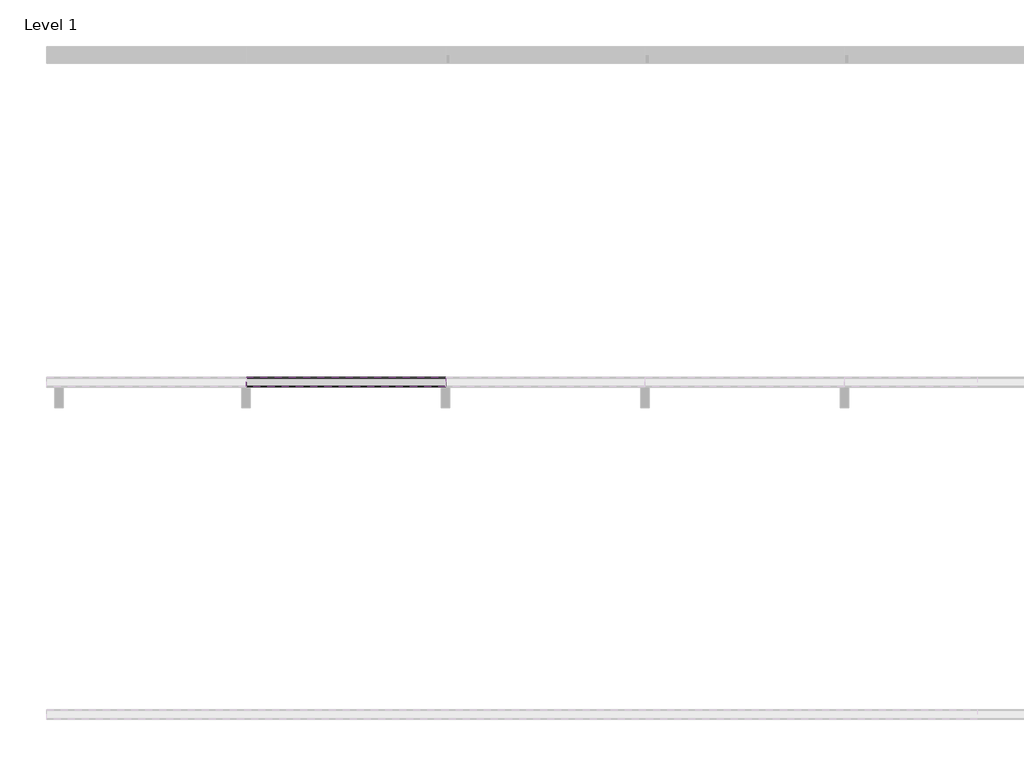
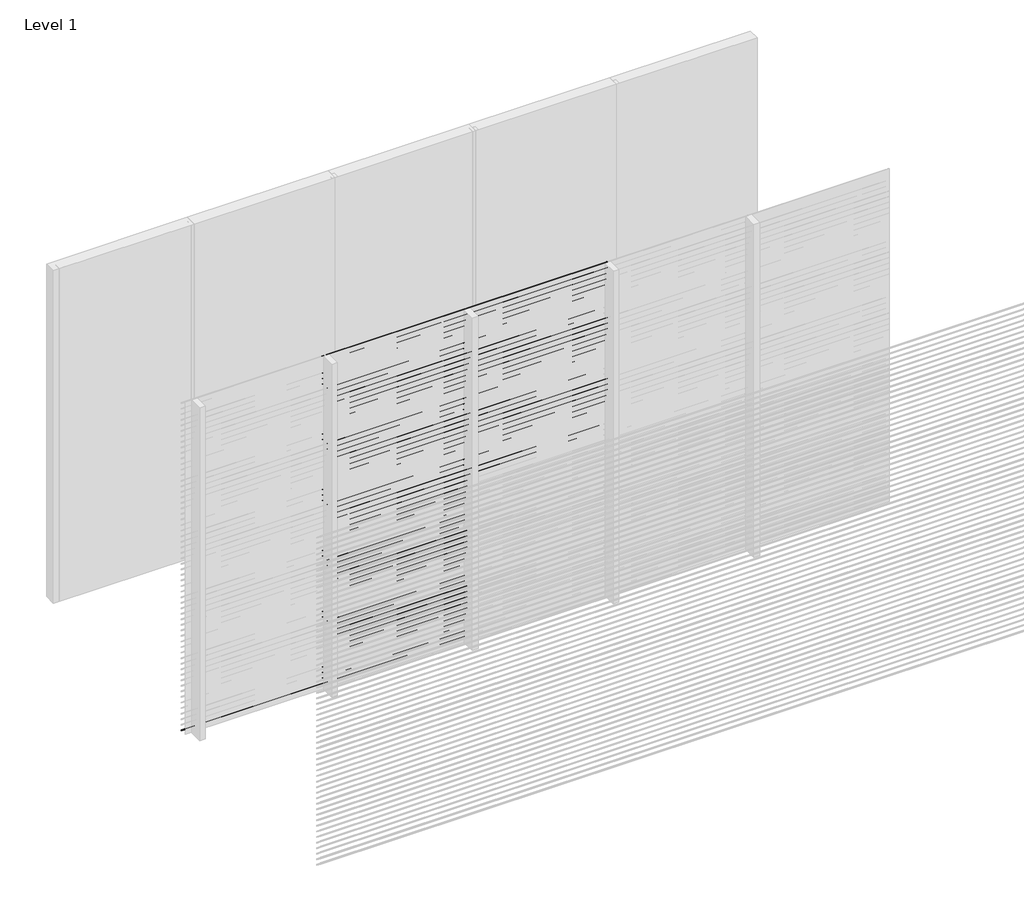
# One storey, part 3 of 16: 92 proxies.
"""IFC4 building model written with IfcOpenShell, lengths in millimetres."""

from ifc_helpers import new_model, si_unit, frame, origin, place, context, project, spatial, polyline, outline, extrude, element, save

model = new_model("IFC4")

# Units and contexts
model_context = context("Model", 3, world=origin())
ifc_project = project(units=[si_unit("LENGTHUNIT", "METRE", prefix="MILLI")], contexts=[model_context])

# Site, building, storey
site = spatial("IfcSite", under=ifc_project)
building = spatial("IfcBuilding", under=site)
storey = spatial("IfcBuildingStorey", under=building, Name="Level 1", Elevation=0.0)

# Proxies
placement = place(None, origin())
element("IfcBuildingElementProxy", 1, Name="Wall Sweeps", at=placement, inside=storey, context=model_context, shape_type="SweptSolid", body=[
    extrude(outline(polyline([(-17995.0, 3000.0), (-17995.0, 2998.0), (-17939.0, 2954.0), (-17939.0, 2946.0), (-17997.0, 2991.5714286), (-17997.0, 3000.0), (-17995.0, 3000.0)])), frame((2400.0000001, 0.0, 0.0), z_axis=(1.0, 0.0, 0.0), x_axis=(0.0, 1.0, 0.0)), (0.0, 0.0, 1.0), 1199.9999999),
])
element("IfcBuildingElementProxy", 2, Name="Wall Sweeps", at=placement, inside=storey, context=model_context, shape_type="SweptSolid", body=[
    extrude(outline(polyline([(-17995.0, 2950.0), (-17995.0, 2948.0), (-17939.0, 2904.0), (-17939.0, 2896.0), (-17997.0, 2941.5714286), (-17997.0, 2950.0), (-17995.0, 2950.0)])), frame((2400.0000001, 0.0, 0.0), z_axis=(1.0, 0.0, 0.0), x_axis=(0.0, 1.0, 0.0)), (0.0, 0.0, 1.0), 1199.9999999),
])
element("IfcBuildingElementProxy", 3, Name="Wall Sweeps", at=placement, inside=storey, context=model_context, shape_type="SweptSolid", body=[
    extrude(outline(polyline([(-17995.0, 2900.0), (-17995.0, 2898.0), (-17939.0, 2854.0), (-17939.0, 2846.0), (-17997.0, 2891.5714286), (-17997.0, 2900.0), (-17995.0, 2900.0)])), frame((2400.0000001, 0.0, 0.0), z_axis=(1.0, 0.0, 0.0), x_axis=(0.0, 1.0, 0.0)), (0.0, 0.0, 1.0), 1199.9999999),
])
element("IfcBuildingElementProxy", 4, Name="Wall Sweeps", at=placement, inside=storey, context=model_context, shape_type="SweptSolid", body=[
    extrude(outline(polyline([(-17995.0, 2850.0), (-17995.0, 2848.0), (-17939.0, 2804.0), (-17939.0, 2796.0), (-17997.0, 2841.5714286), (-17997.0, 2850.0), (-17995.0, 2850.0)])), frame((2400.0000001, 0.0, 0.0), z_axis=(1.0, 0.0, 0.0), x_axis=(0.0, 1.0, 0.0)), (0.0, 0.0, 1.0), 1199.9999999),
])
element("IfcBuildingElementProxy", 5, Name="Wall Sweeps", at=placement, inside=storey, context=model_context, shape_type="SweptSolid", body=[
    extrude(outline(polyline([(-17995.0, 2800.0), (-17995.0, 2798.0), (-17939.0, 2754.0), (-17939.0, 2746.0), (-17997.0, 2791.5714286), (-17997.0, 2800.0), (-17995.0, 2800.0)])), frame((2400.0000001, 0.0, 0.0), z_axis=(1.0, 0.0, 0.0), x_axis=(0.0, 1.0, 0.0)), (0.0, 0.0, 1.0), 1199.9999999),
])
element("IfcBuildingElementProxy", 6, Name="Wall Sweeps", at=placement, inside=storey, context=model_context, shape_type="SweptSolid", body=[
    extrude(outline(polyline([(-17995.0, 2750.0), (-17995.0, 2748.0), (-17939.0, 2704.0), (-17939.0, 2696.0), (-17997.0, 2741.5714286), (-17997.0, 2750.0), (-17995.0, 2750.0)])), frame((2400.0000001, 0.0, 0.0), z_axis=(1.0, 0.0, 0.0), x_axis=(0.0, 1.0, 0.0)), (0.0, 0.0, 1.0), 1199.9999999),
])
element("IfcBuildingElementProxy", 7, Name="Wall Sweeps", at=placement, inside=storey, context=model_context, shape_type="SweptSolid", body=[
    extrude(outline(polyline([(-17995.0, 2700.0), (-17995.0, 2698.0), (-17939.0, 2654.0), (-17939.0, 2646.0), (-17997.0, 2691.5714286), (-17997.0, 2700.0), (-17995.0, 2700.0)])), frame((2400.0000001, 0.0, 0.0), z_axis=(1.0, 0.0, 0.0), x_axis=(0.0, 1.0, 0.0)), (0.0, 0.0, 1.0), 1199.9999999),
])
element("IfcBuildingElementProxy", 8, Name="Wall Sweeps", at=placement, inside=storey, context=model_context, shape_type="SweptSolid", body=[
    extrude(outline(polyline([(-17995.0, 2650.0), (-17995.0, 2648.0), (-17939.0, 2604.0), (-17939.0, 2596.0), (-17997.0, 2641.5714286), (-17997.0, 2650.0), (-17995.0, 2650.0)])), frame((2400.0000001, 0.0, 0.0), z_axis=(1.0, 0.0, 0.0), x_axis=(0.0, 1.0, 0.0)), (0.0, 0.0, 1.0), 1199.9999999),
])
element("IfcBuildingElementProxy", 9, Name="Wall Sweeps", at=placement, inside=storey, context=model_context, shape_type="SweptSolid", body=[
    extrude(outline(polyline([(-17995.0, 2600.0), (-17995.0, 2598.0), (-17939.0, 2554.0), (-17939.0, 2546.0), (-17997.0, 2591.5714286), (-17997.0, 2600.0), (-17995.0, 2600.0)])), frame((2400.0000001, 0.0, 0.0), z_axis=(1.0, 0.0, 0.0), x_axis=(0.0, 1.0, 0.0)), (0.0, 0.0, 1.0), 1199.9999999),
])
element("IfcBuildingElementProxy", 10, Name="Wall Sweeps", at=placement, inside=storey, context=model_context, shape_type="SweptSolid", body=[
    extrude(outline(polyline([(-17995.0, 2550.0), (-17995.0, 2548.0), (-17939.0, 2504.0), (-17939.0, 2496.0), (-17997.0, 2541.5714286), (-17997.0, 2550.0), (-17995.0, 2550.0)])), frame((2400.0000001, 0.0, 0.0), z_axis=(1.0, 0.0, 0.0), x_axis=(0.0, 1.0, 0.0)), (0.0, 0.0, 1.0), 1199.9999999),
])
element("IfcBuildingElementProxy", 11, Name="Wall Sweeps", at=placement, inside=storey, context=model_context, shape_type="SweptSolid", body=[
    extrude(outline(polyline([(-17995.0, 2500.0), (-17995.0, 2498.0), (-17939.0, 2454.0), (-17939.0, 2446.0), (-17997.0, 2491.5714286), (-17997.0, 2500.0), (-17995.0, 2500.0)])), frame((2400.0000001, 0.0, 0.0), z_axis=(1.0, 0.0, 0.0), x_axis=(0.0, 1.0, 0.0)), (0.0, 0.0, 1.0), 1199.9999999),
])
element("IfcBuildingElementProxy", 12, Name="Wall Sweeps", at=placement, inside=storey, context=model_context, shape_type="SweptSolid", body=[
    extrude(outline(polyline([(-17995.0, 2450.0), (-17995.0, 2448.0), (-17939.0, 2404.0), (-17939.0, 2396.0), (-17997.0, 2441.5714286), (-17997.0, 2450.0), (-17995.0, 2450.0)])), frame((2400.0000001, 0.0, 0.0), z_axis=(1.0, 0.0, 0.0), x_axis=(0.0, 1.0, 0.0)), (0.0, 0.0, 1.0), 1199.9999999),
])
element("IfcBuildingElementProxy", 13, Name="Wall Sweeps", at=placement, inside=storey, context=model_context, shape_type="SweptSolid", body=[
    extrude(outline(polyline([(-17995.0, 2400.0), (-17995.0, 2398.0), (-17939.0, 2354.0), (-17939.0, 2346.0), (-17997.0, 2391.5714286), (-17997.0, 2400.0), (-17995.0, 2400.0)])), frame((2400.0000001, 0.0, 0.0), z_axis=(1.0, 0.0, 0.0), x_axis=(0.0, 1.0, 0.0)), (0.0, 0.0, 1.0), 1199.9999999),
])
element("IfcBuildingElementProxy", 14, Name="Wall Sweeps", at=placement, inside=storey, context=model_context, shape_type="SweptSolid", body=[
    extrude(outline(polyline([(-17995.0, 2350.0), (-17995.0, 2348.0), (-17939.0, 2304.0), (-17939.0, 2296.0), (-17997.0, 2341.5714286), (-17997.0, 2350.0), (-17995.0, 2350.0)])), frame((2400.0000001, 0.0, 0.0), z_axis=(1.0, 0.0, 0.0), x_axis=(0.0, 1.0, 0.0)), (0.0, 0.0, 1.0), 1199.9999999),
])
element("IfcBuildingElementProxy", 15, Name="Wall Sweeps", at=placement, inside=storey, context=model_context, shape_type="SweptSolid", body=[
    extrude(outline(polyline([(-17995.0, 2300.0), (-17995.0, 2298.0), (-17939.0, 2254.0), (-17939.0, 2246.0), (-17997.0, 2291.5714286), (-17997.0, 2300.0), (-17995.0, 2300.0)])), frame((2400.0000001, 0.0, 0.0), z_axis=(1.0, 0.0, 0.0), x_axis=(0.0, 1.0, 0.0)), (0.0, 0.0, 1.0), 1199.9999999),
])
element("IfcBuildingElementProxy", 16, Name="Wall Sweeps", at=placement, inside=storey, context=model_context, shape_type="SweptSolid", body=[
    extrude(outline(polyline([(-17995.0, 2250.0), (-17995.0, 2248.0), (-17939.0, 2204.0), (-17939.0, 2196.0), (-17997.0, 2241.5714286), (-17997.0, 2250.0), (-17995.0, 2250.0)])), frame((2400.0000001, 0.0, 0.0), z_axis=(1.0, 0.0, 0.0), x_axis=(0.0, 1.0, 0.0)), (0.0, 0.0, 1.0), 1199.9999999),
])
element("IfcBuildingElementProxy", 17, Name="Wall Sweeps", at=placement, inside=storey, context=model_context, shape_type="SweptSolid", body=[
    extrude(outline(polyline([(-17995.0, 2200.0), (-17995.0, 2198.0), (-17939.0, 2154.0), (-17939.0, 2146.0), (-17997.0, 2191.5714286), (-17997.0, 2200.0), (-17995.0, 2200.0)])), frame((2400.0000001, 0.0, 0.0), z_axis=(1.0, 0.0, 0.0), x_axis=(0.0, 1.0, 0.0)), (0.0, 0.0, 1.0), 1199.9999999),
])
element("IfcBuildingElementProxy", 18, Name="Wall Sweeps", at=placement, inside=storey, context=model_context, shape_type="SweptSolid", body=[
    extrude(outline(polyline([(-17995.0, 2150.0), (-17995.0, 2148.0), (-17939.0, 2104.0), (-17939.0, 2096.0), (-17997.0, 2141.5714286), (-17997.0, 2150.0), (-17995.0, 2150.0)])), frame((2400.0000001, 0.0, 0.0), z_axis=(1.0, 0.0, 0.0), x_axis=(0.0, 1.0, 0.0)), (0.0, 0.0, 1.0), 1199.9999999),
])
element("IfcBuildingElementProxy", 19, Name="Wall Sweeps", at=placement, inside=storey, context=model_context, shape_type="SweptSolid", body=[
    extrude(outline(polyline([(-17995.0, 2100.0), (-17995.0, 2098.0), (-17939.0, 2054.0), (-17939.0, 2046.0), (-17997.0, 2091.5714286), (-17997.0, 2100.0), (-17995.0, 2100.0)])), frame((2400.0000001, 0.0, 0.0), z_axis=(1.0, 0.0, 0.0), x_axis=(0.0, 1.0, 0.0)), (0.0, 0.0, 1.0), 1199.9999999),
])
element("IfcBuildingElementProxy", 20, Name="Wall Sweeps", at=placement, inside=storey, context=model_context, shape_type="SweptSolid", body=[
    extrude(outline(polyline([(-17995.0, 2050.0), (-17995.0, 2048.0), (-17939.0, 2004.0), (-17939.0, 1996.0), (-17997.0, 2041.5714286), (-17997.0, 2050.0), (-17995.0, 2050.0)])), frame((2400.0000001, 0.0, 0.0), z_axis=(1.0, 0.0, 0.0), x_axis=(0.0, 1.0, 0.0)), (0.0, 0.0, 1.0), 1199.9999999),
])
element("IfcBuildingElementProxy", 21, Name="Wall Sweeps", at=placement, inside=storey, context=model_context, shape_type="SweptSolid", body=[
    extrude(outline(polyline([(-17995.0, 2000.0), (-17995.0, 1998.0), (-17939.0, 1954.0), (-17939.0, 1946.0), (-17997.0, 1991.5714286), (-17997.0, 2000.0), (-17995.0, 2000.0)])), frame((2400.0000001, 0.0, 0.0), z_axis=(1.0, 0.0, 0.0), x_axis=(0.0, 1.0, 0.0)), (0.0, 0.0, 1.0), 1199.9999999),
])
element("IfcBuildingElementProxy", 22, Name="Wall Sweeps", at=placement, inside=storey, context=model_context, shape_type="SweptSolid", body=[
    extrude(outline(polyline([(-17995.0, 1950.0), (-17995.0, 1948.0), (-17939.0, 1904.0), (-17939.0, 1896.0), (-17997.0, 1941.5714286), (-17997.0, 1950.0), (-17995.0, 1950.0)])), frame((2400.0000001, 0.0, 0.0), z_axis=(1.0, 0.0, 0.0), x_axis=(0.0, 1.0, 0.0)), (0.0, 0.0, 1.0), 1199.9999999),
])
element("IfcBuildingElementProxy", 23, Name="Wall Sweeps", at=placement, inside=storey, context=model_context, shape_type="SweptSolid", body=[
    extrude(outline(polyline([(-17995.0, 1900.0), (-17995.0, 1898.0), (-17939.0, 1854.0), (-17939.0, 1846.0), (-17997.0, 1891.5714286), (-17997.0, 1900.0), (-17995.0, 1900.0)])), frame((2400.0000001, 0.0, 0.0), z_axis=(1.0, 0.0, 0.0), x_axis=(0.0, 1.0, 0.0)), (0.0, 0.0, 1.0), 1199.9999999),
])
element("IfcBuildingElementProxy", 24, Name="Wall Sweeps", at=placement, inside=storey, context=model_context, shape_type="SweptSolid", body=[
    extrude(outline(polyline([(-17995.0, 1850.0), (-17995.0, 1848.0), (-17939.0, 1804.0), (-17939.0, 1796.0), (-17997.0, 1841.5714286), (-17997.0, 1850.0), (-17995.0, 1850.0)])), frame((2400.0000001, 0.0, 0.0), z_axis=(1.0, 0.0, 0.0), x_axis=(0.0, 1.0, 0.0)), (0.0, 0.0, 1.0), 1199.9999999),
])
element("IfcBuildingElementProxy", 25, Name="Wall Sweeps", at=placement, inside=storey, context=model_context, shape_type="SweptSolid", body=[
    extrude(outline(polyline([(-17995.0, 1800.0), (-17995.0, 1798.0), (-17939.0, 1754.0), (-17939.0, 1746.0), (-17997.0, 1791.5714286), (-17997.0, 1800.0), (-17995.0, 1800.0)])), frame((2400.0000001, 0.0, 0.0), z_axis=(1.0, 0.0, 0.0), x_axis=(0.0, 1.0, 0.0)), (0.0, 0.0, 1.0), 1199.9999999),
])
element("IfcBuildingElementProxy", 26, Name="Wall Sweeps", at=placement, inside=storey, context=model_context, shape_type="SweptSolid", body=[
    extrude(outline(polyline([(-17995.0, 1750.0), (-17995.0, 1748.0), (-17939.0, 1704.0), (-17939.0, 1696.0), (-17997.0, 1741.5714286), (-17997.0, 1750.0), (-17995.0, 1750.0)])), frame((2400.0000001, 0.0, 0.0), z_axis=(1.0, 0.0, 0.0), x_axis=(0.0, 1.0, 0.0)), (0.0, 0.0, 1.0), 1199.9999999),
])
element("IfcBuildingElementProxy", 27, Name="Wall Sweeps", at=placement, inside=storey, context=model_context, shape_type="SweptSolid", body=[
    extrude(outline(polyline([(-17995.0, 1700.0), (-17995.0, 1698.0), (-17939.0, 1654.0), (-17939.0, 1646.0), (-17997.0, 1691.5714286), (-17997.0, 1700.0), (-17995.0, 1700.0)])), frame((2400.0000001, 0.0, 0.0), z_axis=(1.0, 0.0, 0.0), x_axis=(0.0, 1.0, 0.0)), (0.0, 0.0, 1.0), 1199.9999999),
])
element("IfcBuildingElementProxy", 28, Name="Wall Sweeps", at=placement, inside=storey, context=model_context, shape_type="SweptSolid", body=[
    extrude(outline(polyline([(-17995.0, 1650.0), (-17995.0, 1648.0), (-17939.0, 1604.0), (-17939.0, 1596.0), (-17997.0, 1641.5714286), (-17997.0, 1650.0), (-17995.0, 1650.0)])), frame((2400.0000001, 0.0, 0.0), z_axis=(1.0, 0.0, 0.0), x_axis=(0.0, 1.0, 0.0)), (0.0, 0.0, 1.0), 1199.9999999),
])
element("IfcBuildingElementProxy", 29, Name="Wall Sweeps", at=placement, inside=storey, context=model_context, shape_type="SweptSolid", body=[
    extrude(outline(polyline([(-17995.0, 1600.0), (-17995.0, 1598.0), (-17939.0, 1554.0), (-17939.0, 1546.0), (-17997.0, 1591.5714286), (-17997.0, 1600.0), (-17995.0, 1600.0)])), frame((2400.0000001, 0.0, 0.0), z_axis=(1.0, 0.0, 0.0), x_axis=(0.0, 1.0, 0.0)), (0.0, 0.0, 1.0), 1199.9999999),
])
element("IfcBuildingElementProxy", 30, Name="Wall Sweeps", at=placement, inside=storey, context=model_context, shape_type="SweptSolid", body=[
    extrude(outline(polyline([(-17995.0, 1550.0), (-17995.0, 1548.0), (-17939.0, 1504.0), (-17939.0, 1496.0), (-17997.0, 1541.5714286), (-17997.0, 1550.0), (-17995.0, 1550.0)])), frame((2400.0000001, 0.0, 0.0), z_axis=(1.0, 0.0, 0.0), x_axis=(0.0, 1.0, 0.0)), (0.0, 0.0, 1.0), 1199.9999999),
])
element("IfcBuildingElementProxy", 31, Name="Wall Sweeps", at=placement, inside=storey, context=model_context, shape_type="SweptSolid", body=[
    extrude(outline(polyline([(-17995.0, 1500.0), (-17995.0, 1498.0), (-17939.0, 1454.0), (-17939.0, 1446.0), (-17997.0, 1491.5714286), (-17997.0, 1500.0), (-17995.0, 1500.0)])), frame((2400.0000001, 0.0, 0.0), z_axis=(1.0, 0.0, 0.0), x_axis=(0.0, 1.0, 0.0)), (0.0, 0.0, 1.0), 1199.9999999),
])
element("IfcBuildingElementProxy", 32, Name="Wall Sweeps", at=placement, inside=storey, context=model_context, shape_type="SweptSolid", body=[
    extrude(outline(polyline([(-17995.0, 3000.0), (-17995.0, 2998.0), (-17939.0, 2954.0), (-17939.0, 2946.0), (-17997.0, 2991.5714286), (-17997.0, 3000.0), (-17995.0, 3000.0)])), frame((1200.0000002, 0.0, 0.0), z_axis=(1.0, 0.0, 0.0), x_axis=(0.0, 1.0, 0.0)), (0.0, 0.0, 1.0), 1199.9999999),
])
element("IfcBuildingElementProxy", 33, Name="Wall Sweeps", at=placement, inside=storey, context=model_context, shape_type="SweptSolid", body=[
    extrude(outline(polyline([(-17995.0, 2950.0), (-17995.0, 2948.0), (-17939.0, 2904.0), (-17939.0, 2896.0), (-17997.0, 2941.5714286), (-17997.0, 2950.0), (-17995.0, 2950.0)])), frame((1200.0000002, 0.0, 0.0), z_axis=(1.0, 0.0, 0.0), x_axis=(0.0, 1.0, 0.0)), (0.0, 0.0, 1.0), 1199.9999999),
])
element("IfcBuildingElementProxy", 34, Name="Wall Sweeps", at=placement, inside=storey, context=model_context, shape_type="SweptSolid", body=[
    extrude(outline(polyline([(-17995.0, 2900.0), (-17995.0, 2898.0), (-17939.0, 2854.0), (-17939.0, 2846.0), (-17997.0, 2891.5714286), (-17997.0, 2900.0), (-17995.0, 2900.0)])), frame((1200.0000002, 0.0, 0.0), z_axis=(1.0, 0.0, 0.0), x_axis=(0.0, 1.0, 0.0)), (0.0, 0.0, 1.0), 1199.9999999),
])
element("IfcBuildingElementProxy", 35, Name="Wall Sweeps", at=placement, inside=storey, context=model_context, shape_type="SweptSolid", body=[
    extrude(outline(polyline([(-17995.0, 2850.0), (-17995.0, 2848.0), (-17939.0, 2804.0), (-17939.0, 2796.0), (-17997.0, 2841.5714286), (-17997.0, 2850.0), (-17995.0, 2850.0)])), frame((1200.0000002, 0.0, 0.0), z_axis=(1.0, 0.0, 0.0), x_axis=(0.0, 1.0, 0.0)), (0.0, 0.0, 1.0), 1199.9999999),
])
element("IfcBuildingElementProxy", 36, Name="Wall Sweeps", at=placement, inside=storey, context=model_context, shape_type="SweptSolid", body=[
    extrude(outline(polyline([(-17995.0, 2800.0), (-17995.0, 2798.0), (-17939.0, 2754.0), (-17939.0, 2746.0), (-17997.0, 2791.5714286), (-17997.0, 2800.0), (-17995.0, 2800.0)])), frame((1200.0000002, 0.0, 0.0), z_axis=(1.0, 0.0, 0.0), x_axis=(0.0, 1.0, 0.0)), (0.0, 0.0, 1.0), 1199.9999999),
])
element("IfcBuildingElementProxy", 37, Name="Wall Sweeps", at=placement, inside=storey, context=model_context, shape_type="SweptSolid", body=[
    extrude(outline(polyline([(-17995.0, 2750.0), (-17995.0, 2748.0), (-17939.0, 2704.0), (-17939.0, 2696.0), (-17997.0, 2741.5714286), (-17997.0, 2750.0), (-17995.0, 2750.0)])), frame((1200.0000002, 0.0, 0.0), z_axis=(1.0, 0.0, 0.0), x_axis=(0.0, 1.0, 0.0)), (0.0, 0.0, 1.0), 1199.9999999),
])
element("IfcBuildingElementProxy", 38, Name="Wall Sweeps", at=placement, inside=storey, context=model_context, shape_type="SweptSolid", body=[
    extrude(outline(polyline([(-17995.0, 2700.0), (-17995.0, 2698.0), (-17939.0, 2654.0), (-17939.0, 2646.0), (-17997.0, 2691.5714286), (-17997.0, 2700.0), (-17995.0, 2700.0)])), frame((1200.0000002, 0.0, 0.0), z_axis=(1.0, 0.0, 0.0), x_axis=(0.0, 1.0, 0.0)), (0.0, 0.0, 1.0), 1199.9999999),
])
element("IfcBuildingElementProxy", 39, Name="Wall Sweeps", at=placement, inside=storey, context=model_context, shape_type="SweptSolid", body=[
    extrude(outline(polyline([(-17995.0, 2650.0), (-17995.0, 2648.0), (-17939.0, 2604.0), (-17939.0, 2596.0), (-17997.0, 2641.5714286), (-17997.0, 2650.0), (-17995.0, 2650.0)])), frame((1200.0000002, 0.0, 0.0), z_axis=(1.0, 0.0, 0.0), x_axis=(0.0, 1.0, 0.0)), (0.0, 0.0, 1.0), 1199.9999999),
])
element("IfcBuildingElementProxy", 40, Name="Wall Sweeps", at=placement, inside=storey, context=model_context, shape_type="SweptSolid", body=[
    extrude(outline(polyline([(-17995.0, 2600.0), (-17995.0, 2598.0), (-17939.0, 2554.0), (-17939.0, 2546.0), (-17997.0, 2591.5714286), (-17997.0, 2600.0), (-17995.0, 2600.0)])), frame((1200.0000002, 0.0, 0.0), z_axis=(1.0, 0.0, 0.0), x_axis=(0.0, 1.0, 0.0)), (0.0, 0.0, 1.0), 1199.9999999),
])
element("IfcBuildingElementProxy", 41, Name="Wall Sweeps", at=placement, inside=storey, context=model_context, shape_type="SweptSolid", body=[
    extrude(outline(polyline([(-17995.0, 2550.0), (-17995.0, 2548.0), (-17939.0, 2504.0), (-17939.0, 2496.0), (-17997.0, 2541.5714286), (-17997.0, 2550.0), (-17995.0, 2550.0)])), frame((1200.0000002, 0.0, 0.0), z_axis=(1.0, 0.0, 0.0), x_axis=(0.0, 1.0, 0.0)), (0.0, 0.0, 1.0), 1199.9999999),
])
element("IfcBuildingElementProxy", 42, Name="Wall Sweeps", at=placement, inside=storey, context=model_context, shape_type="SweptSolid", body=[
    extrude(outline(polyline([(-17995.0, 2500.0), (-17995.0, 2498.0), (-17939.0, 2454.0), (-17939.0, 2446.0), (-17997.0, 2491.5714286), (-17997.0, 2500.0), (-17995.0, 2500.0)])), frame((1200.0000002, 0.0, 0.0), z_axis=(1.0, 0.0, 0.0), x_axis=(0.0, 1.0, 0.0)), (0.0, 0.0, 1.0), 1199.9999999),
])
element("IfcBuildingElementProxy", 43, Name="Wall Sweeps", at=placement, inside=storey, context=model_context, shape_type="SweptSolid", body=[
    extrude(outline(polyline([(-17995.0, 2450.0), (-17995.0, 2448.0), (-17939.0, 2404.0), (-17939.0, 2396.0), (-17997.0, 2441.5714286), (-17997.0, 2450.0), (-17995.0, 2450.0)])), frame((1200.0000002, 0.0, 0.0), z_axis=(1.0, 0.0, 0.0), x_axis=(0.0, 1.0, 0.0)), (0.0, 0.0, 1.0), 1199.9999999),
])
element("IfcBuildingElementProxy", 44, Name="Wall Sweeps", at=placement, inside=storey, context=model_context, shape_type="SweptSolid", body=[
    extrude(outline(polyline([(-17995.0, 2400.0), (-17995.0, 2398.0), (-17939.0, 2354.0), (-17939.0, 2346.0), (-17997.0, 2391.5714286), (-17997.0, 2400.0), (-17995.0, 2400.0)])), frame((1200.0000002, 0.0, 0.0), z_axis=(1.0, 0.0, 0.0), x_axis=(0.0, 1.0, 0.0)), (0.0, 0.0, 1.0), 1199.9999999),
])
element("IfcBuildingElementProxy", 45, Name="Wall Sweeps", at=placement, inside=storey, context=model_context, shape_type="SweptSolid", body=[
    extrude(outline(polyline([(-17995.0, 2350.0), (-17995.0, 2348.0), (-17939.0, 2304.0), (-17939.0, 2296.0), (-17997.0, 2341.5714286), (-17997.0, 2350.0), (-17995.0, 2350.0)])), frame((1200.0000002, 0.0, 0.0), z_axis=(1.0, 0.0, 0.0), x_axis=(0.0, 1.0, 0.0)), (0.0, 0.0, 1.0), 1199.9999999),
])
element("IfcBuildingElementProxy", 46, Name="Wall Sweeps", at=placement, inside=storey, context=model_context, shape_type="SweptSolid", body=[
    extrude(outline(polyline([(-17995.0, 2300.0), (-17995.0, 2298.0), (-17939.0, 2254.0), (-17939.0, 2246.0), (-17997.0, 2291.5714286), (-17997.0, 2300.0), (-17995.0, 2300.0)])), frame((1200.0000002, 0.0, 0.0), z_axis=(1.0, 0.0, 0.0), x_axis=(0.0, 1.0, 0.0)), (0.0, 0.0, 1.0), 1199.9999999),
])
element("IfcBuildingElementProxy", 47, Name="Wall Sweeps", at=placement, inside=storey, context=model_context, shape_type="SweptSolid", body=[
    extrude(outline(polyline([(-17995.0, 2250.0), (-17995.0, 2248.0), (-17939.0, 2204.0), (-17939.0, 2196.0), (-17997.0, 2241.5714286), (-17997.0, 2250.0), (-17995.0, 2250.0)])), frame((1200.0000002, 0.0, 0.0), z_axis=(1.0, 0.0, 0.0), x_axis=(0.0, 1.0, 0.0)), (0.0, 0.0, 1.0), 1199.9999999),
])
element("IfcBuildingElementProxy", 48, Name="Wall Sweeps", at=placement, inside=storey, context=model_context, shape_type="SweptSolid", body=[
    extrude(outline(polyline([(-17995.0, 2200.0), (-17995.0, 2198.0), (-17939.0, 2154.0), (-17939.0, 2146.0), (-17997.0, 2191.5714286), (-17997.0, 2200.0), (-17995.0, 2200.0)])), frame((1200.0000002, 0.0, 0.0), z_axis=(1.0, 0.0, 0.0), x_axis=(0.0, 1.0, 0.0)), (0.0, 0.0, 1.0), 1199.9999999),
])
element("IfcBuildingElementProxy", 49, Name="Wall Sweeps", at=placement, inside=storey, context=model_context, shape_type="SweptSolid", body=[
    extrude(outline(polyline([(-17995.0, 2150.0), (-17995.0, 2148.0), (-17939.0, 2104.0), (-17939.0, 2096.0), (-17997.0, 2141.5714286), (-17997.0, 2150.0), (-17995.0, 2150.0)])), frame((1200.0000002, 0.0, 0.0), z_axis=(1.0, 0.0, 0.0), x_axis=(0.0, 1.0, 0.0)), (0.0, 0.0, 1.0), 1199.9999999),
])
element("IfcBuildingElementProxy", 50, Name="Wall Sweeps", at=placement, inside=storey, context=model_context, shape_type="SweptSolid", body=[
    extrude(outline(polyline([(-17995.0, 2100.0), (-17995.0, 2098.0), (-17939.0, 2054.0), (-17939.0, 2046.0), (-17997.0, 2091.5714286), (-17997.0, 2100.0), (-17995.0, 2100.0)])), frame((1200.0000002, 0.0, 0.0), z_axis=(1.0, 0.0, 0.0), x_axis=(0.0, 1.0, 0.0)), (0.0, 0.0, 1.0), 1199.9999999),
])
element("IfcBuildingElementProxy", 51, Name="Wall Sweeps", at=placement, inside=storey, context=model_context, shape_type="SweptSolid", body=[
    extrude(outline(polyline([(-17995.0, 2050.0), (-17995.0, 2048.0), (-17939.0, 2004.0), (-17939.0, 1996.0), (-17997.0, 2041.5714286), (-17997.0, 2050.0), (-17995.0, 2050.0)])), frame((1200.0000002, 0.0, 0.0), z_axis=(1.0, 0.0, 0.0), x_axis=(0.0, 1.0, 0.0)), (0.0, 0.0, 1.0), 1199.9999999),
])
element("IfcBuildingElementProxy", 52, Name="Wall Sweeps", at=placement, inside=storey, context=model_context, shape_type="SweptSolid", body=[
    extrude(outline(polyline([(-17995.0, 2000.0), (-17995.0, 1998.0), (-17939.0, 1954.0), (-17939.0, 1946.0), (-17997.0, 1991.5714286), (-17997.0, 2000.0), (-17995.0, 2000.0)])), frame((1200.0000002, 0.0, 0.0), z_axis=(1.0, 0.0, 0.0), x_axis=(0.0, 1.0, 0.0)), (0.0, 0.0, 1.0), 1199.9999999),
])
element("IfcBuildingElementProxy", 53, Name="Wall Sweeps", at=placement, inside=storey, context=model_context, shape_type="SweptSolid", body=[
    extrude(outline(polyline([(-17995.0, 1950.0), (-17995.0, 1948.0), (-17939.0, 1904.0), (-17939.0, 1896.0), (-17997.0, 1941.5714286), (-17997.0, 1950.0), (-17995.0, 1950.0)])), frame((1200.0000002, 0.0, 0.0), z_axis=(1.0, 0.0, 0.0), x_axis=(0.0, 1.0, 0.0)), (0.0, 0.0, 1.0), 1199.9999999),
])
element("IfcBuildingElementProxy", 54, Name="Wall Sweeps", at=placement, inside=storey, context=model_context, shape_type="SweptSolid", body=[
    extrude(outline(polyline([(-17995.0, 1900.0), (-17995.0, 1898.0), (-17939.0, 1854.0), (-17939.0, 1846.0), (-17997.0, 1891.5714286), (-17997.0, 1900.0), (-17995.0, 1900.0)])), frame((1200.0000002, 0.0, 0.0), z_axis=(1.0, 0.0, 0.0), x_axis=(0.0, 1.0, 0.0)), (0.0, 0.0, 1.0), 1199.9999999),
])
element("IfcBuildingElementProxy", 55, Name="Wall Sweeps", at=placement, inside=storey, context=model_context, shape_type="SweptSolid", body=[
    extrude(outline(polyline([(-17995.0, 1850.0), (-17995.0, 1848.0), (-17939.0, 1804.0), (-17939.0, 1796.0), (-17997.0, 1841.5714286), (-17997.0, 1850.0), (-17995.0, 1850.0)])), frame((1200.0000002, 0.0, 0.0), z_axis=(1.0, 0.0, 0.0), x_axis=(0.0, 1.0, 0.0)), (0.0, 0.0, 1.0), 1199.9999999),
])
element("IfcBuildingElementProxy", 56, Name="Wall Sweeps", at=placement, inside=storey, context=model_context, shape_type="SweptSolid", body=[
    extrude(outline(polyline([(-17995.0, 1800.0), (-17995.0, 1798.0), (-17939.0, 1754.0), (-17939.0, 1746.0), (-17997.0, 1791.5714286), (-17997.0, 1800.0), (-17995.0, 1800.0)])), frame((1200.0000002, 0.0, 0.0), z_axis=(1.0, 0.0, 0.0), x_axis=(0.0, 1.0, 0.0)), (0.0, 0.0, 1.0), 1199.9999999),
])
element("IfcBuildingElementProxy", 57, Name="Wall Sweeps", at=placement, inside=storey, context=model_context, shape_type="SweptSolid", body=[
    extrude(outline(polyline([(-17995.0, 1750.0), (-17995.0, 1748.0), (-17939.0, 1704.0), (-17939.0, 1696.0), (-17997.0, 1741.5714286), (-17997.0, 1750.0), (-17995.0, 1750.0)])), frame((1200.0000002, 0.0, 0.0), z_axis=(1.0, 0.0, 0.0), x_axis=(0.0, 1.0, 0.0)), (0.0, 0.0, 1.0), 1199.9999999),
])
element("IfcBuildingElementProxy", 58, Name="Wall Sweeps", at=placement, inside=storey, context=model_context, shape_type="SweptSolid", body=[
    extrude(outline(polyline([(-17995.0, 1700.0), (-17995.0, 1698.0), (-17939.0, 1654.0), (-17939.0, 1646.0), (-17997.0, 1691.5714286), (-17997.0, 1700.0), (-17995.0, 1700.0)])), frame((1200.0000002, 0.0, 0.0), z_axis=(1.0, 0.0, 0.0), x_axis=(0.0, 1.0, 0.0)), (0.0, 0.0, 1.0), 1199.9999999),
])
element("IfcBuildingElementProxy", 59, Name="Wall Sweeps", at=placement, inside=storey, context=model_context, shape_type="SweptSolid", body=[
    extrude(outline(polyline([(-17995.0, 1650.0), (-17995.0, 1648.0), (-17939.0, 1604.0), (-17939.0, 1596.0), (-17997.0, 1641.5714286), (-17997.0, 1650.0), (-17995.0, 1650.0)])), frame((1200.0000002, 0.0, 0.0), z_axis=(1.0, 0.0, 0.0), x_axis=(0.0, 1.0, 0.0)), (0.0, 0.0, 1.0), 1199.9999999),
])
element("IfcBuildingElementProxy", 60, Name="Wall Sweeps", at=placement, inside=storey, context=model_context, shape_type="SweptSolid", body=[
    extrude(outline(polyline([(-17995.0, 1600.0), (-17995.0, 1598.0), (-17939.0, 1554.0), (-17939.0, 1546.0), (-17997.0, 1591.5714286), (-17997.0, 1600.0), (-17995.0, 1600.0)])), frame((1200.0000002, 0.0, 0.0), z_axis=(1.0, 0.0, 0.0), x_axis=(0.0, 1.0, 0.0)), (0.0, 0.0, 1.0), 1199.9999999),
])
element("IfcBuildingElementProxy", 61, Name="Wall Sweeps", at=placement, inside=storey, context=model_context, shape_type="SweptSolid", body=[
    extrude(outline(polyline([(-17995.0, 1550.0), (-17995.0, 1548.0), (-17939.0, 1504.0), (-17939.0, 1496.0), (-17997.0, 1541.5714286), (-17997.0, 1550.0), (-17995.0, 1550.0)])), frame((1200.0000002, 0.0, 0.0), z_axis=(1.0, 0.0, 0.0), x_axis=(0.0, 1.0, 0.0)), (0.0, 0.0, 1.0), 1199.9999999),
])
element("IfcBuildingElementProxy", 62, Name="Wall Sweeps", at=placement, inside=storey, context=model_context, shape_type="SweptSolid", body=[
    extrude(outline(polyline([(-17995.0, 1500.0), (-17995.0, 1498.0), (-17939.0, 1454.0), (-17939.0, 1446.0), (-17997.0, 1491.5714286), (-17997.0, 1500.0), (-17995.0, 1500.0)])), frame((1200.0000002, 0.0, 0.0), z_axis=(1.0, 0.0, 0.0), x_axis=(0.0, 1.0, 0.0)), (0.0, 0.0, 1.0), 1199.9999999),
])
element("IfcBuildingElementProxy", 63, Name="Wall Sweeps", at=placement, inside=storey, context=model_context, shape_type="SweptSolid", body=[
    extrude(outline(polyline([(-17995.0, 1450.0), (-17995.0, 1448.0), (-17939.0, 1404.0), (-17939.0, 1396.0), (-17997.0, 1441.5714286), (-17997.0, 1450.0), (-17995.0, 1450.0)])), frame((1200.0000002, 0.0, 0.0), z_axis=(1.0, 0.0, 0.0), x_axis=(0.0, 1.0, 0.0)), (0.0, 0.0, 1.0), 1199.9999999),
])
element("IfcBuildingElementProxy", 64, Name="Wall Sweeps", at=placement, inside=storey, context=model_context, shape_type="SweptSolid", body=[
    extrude(outline(polyline([(-17995.0, 1400.0), (-17995.0, 1398.0), (-17939.0, 1354.0), (-17939.0, 1346.0), (-17997.0, 1391.5714286), (-17997.0, 1400.0), (-17995.0, 1400.0)])), frame((1200.0000002, 0.0, 0.0), z_axis=(1.0, 0.0, 0.0), x_axis=(0.0, 1.0, 0.0)), (0.0, 0.0, 1.0), 1199.9999999),
])
element("IfcBuildingElementProxy", 65, Name="Wall Sweeps", at=placement, inside=storey, context=model_context, shape_type="SweptSolid", body=[
    extrude(outline(polyline([(-17995.0, 1350.0), (-17995.0, 1348.0), (-17939.0, 1304.0), (-17939.0, 1296.0), (-17997.0, 1341.5714286), (-17997.0, 1350.0), (-17995.0, 1350.0)])), frame((1200.0000002, 0.0, 0.0), z_axis=(1.0, 0.0, 0.0), x_axis=(0.0, 1.0, 0.0)), (0.0, 0.0, 1.0), 1199.9999999),
])
element("IfcBuildingElementProxy", 66, Name="Wall Sweeps", at=placement, inside=storey, context=model_context, shape_type="SweptSolid", body=[
    extrude(outline(polyline([(-17995.0, 1300.0), (-17995.0, 1298.0), (-17939.0, 1254.0), (-17939.0, 1246.0), (-17997.0, 1291.5714286), (-17997.0, 1300.0), (-17995.0, 1300.0)])), frame((1200.0000002, 0.0, 0.0), z_axis=(1.0, 0.0, 0.0), x_axis=(0.0, 1.0, 0.0)), (0.0, 0.0, 1.0), 1199.9999999),
])
element("IfcBuildingElementProxy", 67, Name="Wall Sweeps", at=placement, inside=storey, context=model_context, shape_type="SweptSolid", body=[
    extrude(outline(polyline([(-17995.0, 1250.0), (-17995.0, 1248.0), (-17939.0, 1204.0), (-17939.0, 1196.0), (-17997.0, 1241.5714286), (-17997.0, 1250.0), (-17995.0, 1250.0)])), frame((1200.0000002, 0.0, 0.0), z_axis=(1.0, 0.0, 0.0), x_axis=(0.0, 1.0, 0.0)), (0.0, 0.0, 1.0), 1199.9999999),
])
element("IfcBuildingElementProxy", 68, Name="Wall Sweeps", at=placement, inside=storey, context=model_context, shape_type="SweptSolid", body=[
    extrude(outline(polyline([(-17995.0, 1200.0), (-17995.0, 1198.0), (-17939.0, 1154.0), (-17939.0, 1146.0), (-17997.0, 1191.5714286), (-17997.0, 1200.0), (-17995.0, 1200.0)])), frame((1200.0000002, 0.0, 0.0), z_axis=(1.0, 0.0, 0.0), x_axis=(0.0, 1.0, 0.0)), (0.0, 0.0, 1.0), 1199.9999999),
])
element("IfcBuildingElementProxy", 69, Name="Wall Sweeps", at=placement, inside=storey, context=model_context, shape_type="SweptSolid", body=[
    extrude(outline(polyline([(-17995.0, 1150.0), (-17995.0, 1148.0), (-17939.0, 1104.0), (-17939.0, 1096.0), (-17997.0, 1141.5714286), (-17997.0, 1150.0), (-17995.0, 1150.0)])), frame((1200.0000002, 0.0, 0.0), z_axis=(1.0, 0.0, 0.0), x_axis=(0.0, 1.0, 0.0)), (0.0, 0.0, 1.0), 1199.9999999),
])
element("IfcBuildingElementProxy", 70, Name="Wall Sweeps", at=placement, inside=storey, context=model_context, shape_type="SweptSolid", body=[
    extrude(outline(polyline([(-17995.0, 1100.0), (-17995.0, 1098.0), (-17939.0, 1054.0), (-17939.0, 1046.0), (-17997.0, 1091.5714286), (-17997.0, 1100.0), (-17995.0, 1100.0)])), frame((1200.0000002, 0.0, 0.0), z_axis=(1.0, 0.0, 0.0), x_axis=(0.0, 1.0, 0.0)), (0.0, 0.0, 1.0), 1199.9999999),
])
element("IfcBuildingElementProxy", 71, Name="Wall Sweeps", at=placement, inside=storey, context=model_context, shape_type="SweptSolid", body=[
    extrude(outline(polyline([(-17995.0, 1050.0), (-17995.0, 1048.0), (-17939.0, 1004.0), (-17939.0, 996.0), (-17997.0, 1041.5714286), (-17997.0, 1050.0), (-17995.0, 1050.0)])), frame((1200.0000002, 0.0, 0.0), z_axis=(1.0, 0.0, 0.0), x_axis=(0.0, 1.0, 0.0)), (0.0, 0.0, 1.0), 1199.9999999),
])
element("IfcBuildingElementProxy", 72, Name="Wall Sweeps", at=placement, inside=storey, context=model_context, shape_type="SweptSolid", body=[
    extrude(outline(polyline([(-17995.0, 1000.0), (-17995.0, 998.0), (-17939.0, 954.0), (-17939.0, 946.0), (-17997.0, 991.5714286), (-17997.0, 1000.0), (-17995.0, 1000.0)])), frame((1200.0000002, 0.0, 0.0), z_axis=(1.0, 0.0, 0.0), x_axis=(0.0, 1.0, 0.0)), (0.0, 0.0, 1.0), 1199.9999999),
])
element("IfcBuildingElementProxy", 73, Name="Wall Sweeps", at=placement, inside=storey, context=model_context, shape_type="SweptSolid", body=[
    extrude(outline(polyline([(-17995.0, 950.0), (-17995.0, 948.0), (-17939.0, 904.0), (-17939.0, 896.0), (-17997.0, 941.5714286), (-17997.0, 950.0), (-17995.0, 950.0)])), frame((1200.0000002, 0.0, 0.0), z_axis=(1.0, 0.0, 0.0), x_axis=(0.0, 1.0, 0.0)), (0.0, 0.0, 1.0), 1199.9999999),
])
element("IfcBuildingElementProxy", 74, Name="Wall Sweeps", at=placement, inside=storey, context=model_context, shape_type="SweptSolid", body=[
    extrude(outline(polyline([(-17995.0, 900.0), (-17995.0, 898.0), (-17939.0, 854.0), (-17939.0, 846.0), (-17997.0, 891.5714286), (-17997.0, 900.0), (-17995.0, 900.0)])), frame((1200.0000002, 0.0, 0.0), z_axis=(1.0, 0.0, 0.0), x_axis=(0.0, 1.0, 0.0)), (0.0, 0.0, 1.0), 1199.9999999),
])
element("IfcBuildingElementProxy", 75, Name="Wall Sweeps", at=placement, inside=storey, context=model_context, shape_type="SweptSolid", body=[
    extrude(outline(polyline([(-17995.0, 850.0), (-17995.0, 848.0), (-17939.0, 804.0), (-17939.0, 796.0), (-17997.0, 841.5714286), (-17997.0, 850.0), (-17995.0, 850.0)])), frame((1200.0000002, 0.0, 0.0), z_axis=(1.0, 0.0, 0.0), x_axis=(0.0, 1.0, 0.0)), (0.0, 0.0, 1.0), 1199.9999999),
])
element("IfcBuildingElementProxy", 76, Name="Wall Sweeps", at=placement, inside=storey, context=model_context, shape_type="SweptSolid", body=[
    extrude(outline(polyline([(-17995.0, 800.0), (-17995.0, 798.0), (-17939.0, 754.0), (-17939.0, 746.0), (-17997.0, 791.5714286), (-17997.0, 800.0), (-17995.0, 800.0)])), frame((1200.0000002, 0.0, 0.0), z_axis=(1.0, 0.0, 0.0), x_axis=(0.0, 1.0, 0.0)), (0.0, 0.0, 1.0), 1199.9999999),
])
element("IfcBuildingElementProxy", 77, Name="Wall Sweeps", at=placement, inside=storey, context=model_context, shape_type="SweptSolid", body=[
    extrude(outline(polyline([(-17995.0, 750.0), (-17995.0, 748.0), (-17939.0, 704.0), (-17939.0, 696.0), (-17997.0, 741.5714286), (-17997.0, 750.0), (-17995.0, 750.0)])), frame((1200.0000002, 0.0, 0.0), z_axis=(1.0, 0.0, 0.0), x_axis=(0.0, 1.0, 0.0)), (0.0, 0.0, 1.0), 1199.9999999),
])
element("IfcBuildingElementProxy", 78, Name="Wall Sweeps", at=placement, inside=storey, context=model_context, shape_type="SweptSolid", body=[
    extrude(outline(polyline([(-17995.0, 700.0), (-17995.0, 698.0), (-17939.0, 654.0), (-17939.0, 646.0), (-17997.0, 691.5714286), (-17997.0, 700.0), (-17995.0, 700.0)])), frame((1200.0000002, 0.0, 0.0), z_axis=(1.0, 0.0, 0.0), x_axis=(0.0, 1.0, 0.0)), (0.0, 0.0, 1.0), 1199.9999999),
])
element("IfcBuildingElementProxy", 79, Name="Wall Sweeps", at=placement, inside=storey, context=model_context, shape_type="SweptSolid", body=[
    extrude(outline(polyline([(-17995.0, 650.0), (-17995.0, 648.0), (-17939.0, 604.0), (-17939.0, 596.0), (-17997.0, 641.5714286), (-17997.0, 650.0), (-17995.0, 650.0)])), frame((1200.0000002, 0.0, 0.0), z_axis=(1.0, 0.0, 0.0), x_axis=(0.0, 1.0, 0.0)), (0.0, 0.0, 1.0), 1199.9999999),
])
element("IfcBuildingElementProxy", 80, Name="Wall Sweeps", at=placement, inside=storey, context=model_context, shape_type="SweptSolid", body=[
    extrude(outline(polyline([(-17995.0, 600.0), (-17995.0, 598.0), (-17939.0, 554.0), (-17939.0, 546.0), (-17997.0, 591.5714286), (-17997.0, 600.0), (-17995.0, 600.0)])), frame((1200.0000002, 0.0, 0.0), z_axis=(1.0, 0.0, 0.0), x_axis=(0.0, 1.0, 0.0)), (0.0, 0.0, 1.0), 1199.9999999),
])
element("IfcBuildingElementProxy", 81, Name="Wall Sweeps", at=placement, inside=storey, context=model_context, shape_type="SweptSolid", body=[
    extrude(outline(polyline([(-17995.0, 550.0), (-17995.0, 548.0), (-17939.0, 504.0), (-17939.0, 496.0), (-17997.0, 541.5714286), (-17997.0, 550.0), (-17995.0, 550.0)])), frame((1200.0000002, 0.0, 0.0), z_axis=(1.0, 0.0, 0.0), x_axis=(0.0, 1.0, 0.0)), (0.0, 0.0, 1.0), 1199.9999999),
])
element("IfcBuildingElementProxy", 82, Name="Wall Sweeps", at=placement, inside=storey, context=model_context, shape_type="SweptSolid", body=[
    extrude(outline(polyline([(-17995.0, 500.0), (-17995.0, 498.0), (-17939.0, 454.0), (-17939.0, 446.0), (-17997.0, 491.5714286), (-17997.0, 500.0), (-17995.0, 500.0)])), frame((1200.0000002, 0.0, 0.0), z_axis=(1.0, 0.0, 0.0), x_axis=(0.0, 1.0, 0.0)), (0.0, 0.0, 1.0), 1199.9999999),
])
element("IfcBuildingElementProxy", 83, Name="Wall Sweeps", at=placement, inside=storey, context=model_context, shape_type="SweptSolid", body=[
    extrude(outline(polyline([(-17995.0, 450.0), (-17995.0, 448.0), (-17939.0, 404.0), (-17939.0, 396.0), (-17997.0, 441.5714286), (-17997.0, 450.0), (-17995.0, 450.0)])), frame((1200.0000002, 0.0, 0.0), z_axis=(1.0, 0.0, 0.0), x_axis=(0.0, 1.0, 0.0)), (0.0, 0.0, 1.0), 1199.9999999),
])
element("IfcBuildingElementProxy", 84, Name="Wall Sweeps", at=placement, inside=storey, context=model_context, shape_type="SweptSolid", body=[
    extrude(outline(polyline([(-17995.0, 400.0), (-17995.0, 398.0), (-17939.0, 354.0), (-17939.0, 346.0), (-17997.0, 391.5714286), (-17997.0, 400.0), (-17995.0, 400.0)])), frame((1200.0000002, 0.0, 0.0), z_axis=(1.0, 0.0, 0.0), x_axis=(0.0, 1.0, 0.0)), (0.0, 0.0, 1.0), 1199.9999999),
])
element("IfcBuildingElementProxy", 85, Name="Wall Sweeps", at=placement, inside=storey, context=model_context, shape_type="SweptSolid", body=[
    extrude(outline(polyline([(-17995.0, 350.0), (-17995.0, 348.0), (-17939.0, 304.0), (-17939.0, 296.0), (-17997.0, 341.5714286), (-17997.0, 350.0), (-17995.0, 350.0)])), frame((1200.0000002, 0.0, 0.0), z_axis=(1.0, 0.0, 0.0), x_axis=(0.0, 1.0, 0.0)), (0.0, 0.0, 1.0), 1199.9999999),
])
element("IfcBuildingElementProxy", 86, Name="Wall Sweeps", at=placement, inside=storey, context=model_context, shape_type="SweptSolid", body=[
    extrude(outline(polyline([(-17995.0, 300.0), (-17995.0, 298.0), (-17939.0, 254.0), (-17939.0, 246.0), (-17997.0, 291.5714286), (-17997.0, 300.0), (-17995.0, 300.0)])), frame((1200.0000002, 0.0, 0.0), z_axis=(1.0, 0.0, 0.0), x_axis=(0.0, 1.0, 0.0)), (0.0, 0.0, 1.0), 1199.9999999),
])
element("IfcBuildingElementProxy", 87, Name="Wall Sweeps", at=placement, inside=storey, context=model_context, shape_type="SweptSolid", body=[
    extrude(outline(polyline([(-17995.0, 250.0), (-17995.0, 248.0), (-17939.0, 204.0), (-17939.0, 196.0), (-17997.0, 241.5714286), (-17997.0, 250.0), (-17995.0, 250.0)])), frame((1200.0000002, 0.0, 0.0), z_axis=(1.0, 0.0, 0.0), x_axis=(0.0, 1.0, 0.0)), (0.0, 0.0, 1.0), 1199.9999999),
])
element("IfcBuildingElementProxy", 88, Name="Wall Sweeps", at=placement, inside=storey, context=model_context, shape_type="SweptSolid", body=[
    extrude(outline(polyline([(-17995.0, 200.0), (-17995.0, 198.0), (-17939.0, 154.0), (-17939.0, 146.0), (-17997.0, 191.5714286), (-17997.0, 200.0), (-17995.0, 200.0)])), frame((1200.0000002, 0.0, 0.0), z_axis=(1.0, 0.0, 0.0), x_axis=(0.0, 1.0, 0.0)), (0.0, 0.0, 1.0), 1199.9999999),
])
element("IfcBuildingElementProxy", 89, Name="Wall Sweeps", at=placement, inside=storey, context=model_context, shape_type="SweptSolid", body=[
    extrude(outline(polyline([(-17995.0, 150.0), (-17995.0, 148.0), (-17939.0, 104.0), (-17939.0, 96.0), (-17997.0, 141.5714286), (-17997.0, 150.0), (-17995.0, 150.0)])), frame((1200.0000002, 0.0, 0.0), z_axis=(1.0, 0.0, 0.0), x_axis=(0.0, 1.0, 0.0)), (0.0, 0.0, 1.0), 1199.9999999),
])
element("IfcBuildingElementProxy", 90, Name="Wall Sweeps", at=placement, inside=storey, context=model_context, shape_type="SweptSolid", body=[
    extrude(outline(polyline([(-17995.0, 100.0), (-17995.0, 98.0), (-17939.0, 54.0), (-17939.0, 46.0), (-17997.0, 91.5714286), (-17997.0, 100.0), (-17995.0, 100.0)])), frame((1200.0000002, 0.0, 0.0), z_axis=(1.0, 0.0, 0.0), x_axis=(0.0, 1.0, 0.0)), (0.0, 0.0, 1.0), 1199.9999999),
])
element("IfcBuildingElementProxy", 91, Name="Wall Sweeps", at=placement, inside=storey, context=model_context, shape_type="SweptSolid", body=[
    extrude(outline(polyline([(-17995.0, 50.0), (-17995.0, 48.0), (-17939.0, 4.0), (-17939.0, -4.0), (-17997.0, 41.5714286), (-17997.0, 50.0), (-17995.0, 50.0)])), frame((1200.0000002, 0.0, 0.0), z_axis=(1.0, 0.0, 0.0), x_axis=(0.0, 1.0, 0.0)), (0.0, 0.0, 1.0), 1199.9999999),
])
element("IfcBuildingElementProxy", 92, Name="Wall Sweeps", at=placement, inside=storey, context=model_context, shape_type="SweptSolid", body=[
    extrude(outline(polyline([(-17995.0, 50.0), (-17995.0, 48.0), (-17939.0, 4.0), (-17939.0, -4.0), (-17997.0, 41.5714286), (-17997.0, 50.0), (-17995.0, 50.0)])), frame((0.0, 0.0, 0.0), z_axis=(1.0, 0.0, 0.0), x_axis=(0.0, 1.0, 0.0)), (0.0, 0.0, 1.0), 1200.0000002),
])

save(model, "model.ifc")
